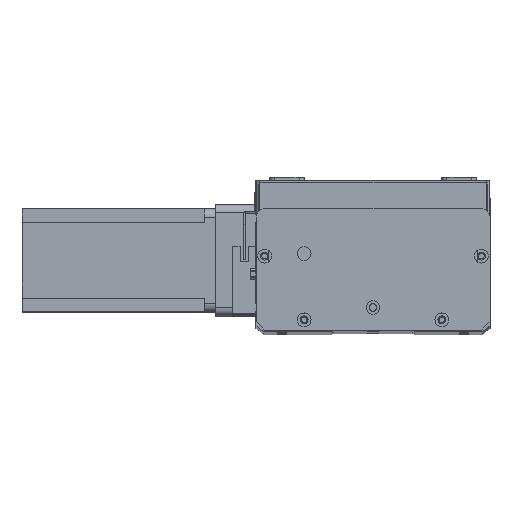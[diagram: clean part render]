
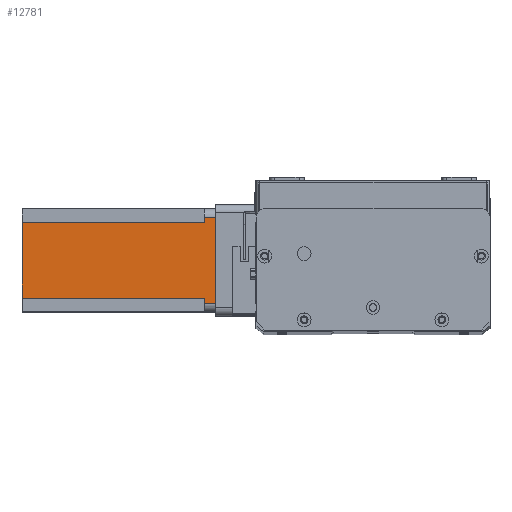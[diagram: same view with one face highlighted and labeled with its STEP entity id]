
A CAD part, top view. The second image highlights one B-rep face of the part: STEP entity #12781.
In plain terms, the highlighted planar face has unit normal (0, 0, 1) as drawn and (0, -1, 0) by its records, which use the part's own axes.
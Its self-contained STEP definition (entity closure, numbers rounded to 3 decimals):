
#94 = VERTEX_POINT ( 'NONE', #14426 ) ;
#544 = LINE ( 'NONE', #14901, #25619 ) ;
#1231 = DIRECTION ( 'NONE',  ( 0., 0., 1. ) ) ;
#1270 = LINE ( 'NONE', #3115, #21742 ) ;
#1767 = LINE ( 'NONE', #16945, #5200 ) ;
#1934 = DIRECTION ( 'NONE',  ( 0., 0., 1. ) ) ;
#3088 = LINE ( 'NONE', #22983, #13635 ) ;
#3115 = CARTESIAN_POINT ( 'NONE',  ( 52., 0., -112.5 ) ) ;
#3364 = CARTESIAN_POINT ( 'NONE',  ( 52., 0., -112.5 ) ) ;
#4043 = DIRECTION ( 'NONE',  ( 1., 0., 0. ) ) ;
#5129 = VERTEX_POINT ( 'NONE', #18603 ) ;
#5200 = VECTOR ( 'NONE', #18946, 1000. ) ;
#5797 = ORIENTED_EDGE ( 'NONE', *, *, #10056, .T. ) ;
#5842 = EDGE_CURVE ( 'NONE', #23090, #5129, #18606, .T. ) ;
#6697 = EDGE_CURVE ( 'NONE', #19354, #11819, #1767, .T. ) ;
#6745 = CARTESIAN_POINT ( 'NONE',  ( 0., 0., -112.5 ) ) ;
#7115 = DIRECTION ( 'NONE',  ( 0., 0., -1. ) ) ;
#7780 = FACE_OUTER_BOUND ( 'NONE', #17741, .T. ) ;
#8035 = VECTOR ( 'NONE', #4043, 1000. ) ;
#8870 = DIRECTION ( 'NONE',  ( 0., -1., 0. ) ) ;
#9072 = VERTEX_POINT ( 'NONE', #16593 ) ;
#9140 = VERTEX_POINT ( 'NONE', #24687 ) ;
#9386 = ORIENTED_EDGE ( 'NONE', *, *, #5842, .T. ) ;
#9425 = LINE ( 'NONE', #22303, #20560 ) ;
#9970 = CARTESIAN_POINT ( 'NONE',  ( 5., 0., 0. ) ) ;
#10056 = EDGE_CURVE ( 'NONE', #5129, #11819, #17307, .T. ) ;
#11545 = EDGE_CURVE ( 'NONE', #19354, #94, #9425, .T. ) ;
#11819 = VERTEX_POINT ( 'NONE', #21350 ) ;
#11934 = CARTESIAN_POINT ( 'NONE',  ( 52., 0., -6.5 ) ) ;
#12320 = EDGE_CURVE ( 'NONE', #23090, #19130, #1270, .T. ) ;
#12781 = ADVANCED_FACE ( 'NONE', ( #7780 ), #14760, .T. ) ;
#12867 = DIRECTION ( 'NONE',  ( 1., 0., 0. ) ) ;
#12898 = ORIENTED_EDGE ( 'NONE', *, *, #6697, .F. ) ;
#13635 = VECTOR ( 'NONE', #1231, 1000. ) ;
#13851 = LINE ( 'NONE', #23539, #19155 ) ;
#14331 = EDGE_CURVE ( 'NONE', #9072, #19130, #544, .T. ) ;
#14426 = CARTESIAN_POINT ( 'NONE',  ( 5., 0., -6.5 ) ) ;
#14760 = PLANE ( 'NONE',  #15516 ) ;
#14901 = CARTESIAN_POINT ( 'NONE',  ( 0., 0., -112.5 ) ) ;
#15516 = AXIS2_PLACEMENT_3D ( 'NONE', #6745, #8870, #22676 ) ;
#16203 = CARTESIAN_POINT ( 'NONE',  ( 52., 0., -6.5 ) ) ;
#16593 = CARTESIAN_POINT ( 'NONE',  ( 8., 0., -112.5 ) ) ;
#16945 = CARTESIAN_POINT ( 'NONE',  ( 0., 0., 0. ) ) ;
#17067 = EDGE_CURVE ( 'NONE', #9140, #94, #13851, .T. ) ;
#17307 = LINE ( 'NONE', #21799, #23160 ) ;
#17741 = EDGE_LOOP ( 'NONE', ( #9386, #5797, #12898, #19936, #21429, #17902, #25482, #17959 ) ) ;
#17902 = ORIENTED_EDGE ( 'NONE', *, *, #22090, .F. ) ;
#17959 = ORIENTED_EDGE ( 'NONE', *, *, #12320, .F. ) ;
#18603 = CARTESIAN_POINT ( 'NONE',  ( 55., 0., -6.5 ) ) ;
#18606 = LINE ( 'NONE', #11934, #8035 ) ;
#18946 = DIRECTION ( 'NONE',  ( 1., 0., 0. ) ) ;
#19130 = VERTEX_POINT ( 'NONE', #3364 ) ;
#19155 = VECTOR ( 'NONE', #25401, 1000. ) ;
#19354 = VERTEX_POINT ( 'NONE', #9970 ) ;
#19936 = ORIENTED_EDGE ( 'NONE', *, *, #11545, .T. ) ;
#20560 = VECTOR ( 'NONE', #24379, 1000. ) ;
#21350 = CARTESIAN_POINT ( 'NONE',  ( 55., 0., 0. ) ) ;
#21429 = ORIENTED_EDGE ( 'NONE', *, *, #17067, .F. ) ;
#21742 = VECTOR ( 'NONE', #7115, 1000. ) ;
#21799 = CARTESIAN_POINT ( 'NONE',  ( 55., 0., -112.5 ) ) ;
#22090 = EDGE_CURVE ( 'NONE', #9072, #9140, #3088, .T. ) ;
#22303 = CARTESIAN_POINT ( 'NONE',  ( 5., 0., -112.5 ) ) ;
#22676 = DIRECTION ( 'NONE',  ( 0., 0., -1. ) ) ;
#22983 = CARTESIAN_POINT ( 'NONE',  ( 8., 0., -112.5 ) ) ;
#23090 = VERTEX_POINT ( 'NONE', #16203 ) ;
#23160 = VECTOR ( 'NONE', #1934, 1000. ) ;
#23539 = CARTESIAN_POINT ( 'NONE',  ( 8., 0., -6.5 ) ) ;
#24379 = DIRECTION ( 'NONE',  ( 0., 0., -1. ) ) ;
#24687 = CARTESIAN_POINT ( 'NONE',  ( 8., 0., -6.5 ) ) ;
#25401 = DIRECTION ( 'NONE',  ( -1., 0., 0. ) ) ;
#25482 = ORIENTED_EDGE ( 'NONE', *, *, #14331, .T. ) ;
#25619 = VECTOR ( 'NONE', #12867, 1000. ) ;
